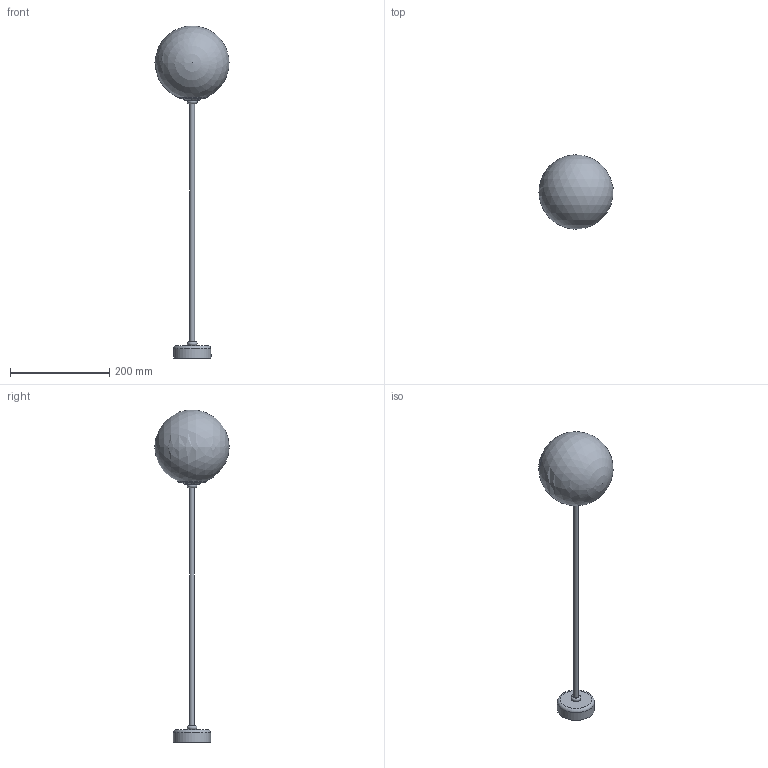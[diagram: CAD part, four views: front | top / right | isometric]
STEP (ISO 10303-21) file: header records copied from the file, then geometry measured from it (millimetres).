
FILE_DESCRIPTION(/* description */ (''),/* implementation_level */ '2;1');
FILE_NAME(/* name */ 'C:\Users\Patryk\Desktop\Modele BIAŁY\B25\LAMPA B25.stp',/* time_stamp */ '2019-12-15T01:13:55+01:00',/* author */ ('Patryk'),/* organization */ (''),/* preprocessor_version */ 'ST-DEVELOPER v17',/* originating_system */ 'Autodesk Inventor 2019',/* authorisation */ '');
FILE_SCHEMA (('AUTOMOTIVE_DESIGN { 1 0 10303 214 3 1 1 }'));
Length unit declared in the file: millimetre
Products named in the file (8): LAMPA B15; b56 kula; T14 mocowanie do ściany; B56 pierscien duzy; b56 pierscien maly; B15 rurka II; b56 pierscien maly_1; sruba
Assembly tree (7 placements, depth 2):
  LAMPA B15
    b56 kula
    T14 mocowanie do ściany
    B56 pierscien duzy
    b56 pierscien maly
    B15 rurka II
    b56 pierscien maly_1
    sruba
Bounding box: 149.45 x 150 x 669.45 mm (x, y, z)
Volume: 1838075.2 mm3; surface area: 113858.5 mm2
Topology: 7 solids, 7 shells, 38 faces, 95 edges, 67 vertices
Faces by surface type: plane 16, cylinder 11, torus 7, bspline 3, sphere 1
Full cylindrical faces by diameter (mm): 2.5 x1, 4 x2, 8 x1, 10 x1, 12 x4, 71 x1, 75 x1
Entity records: 1627 total; most frequent: CARTESIAN_POINT 369, DIRECTION 243, ORIENTED_EDGE 186, AXIS2_PLACEMENT_3D 111, EDGE_CURVE 93, VERTEX_POINT 67, CIRCLE 61, EDGE_LOOP 46
